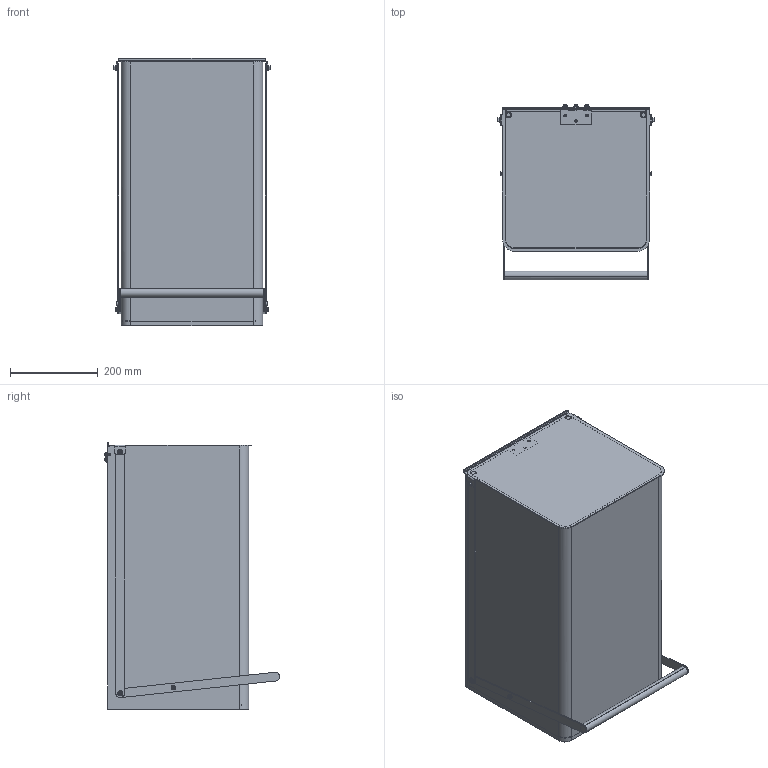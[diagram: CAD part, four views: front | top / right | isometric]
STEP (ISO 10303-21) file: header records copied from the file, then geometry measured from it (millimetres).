
FILE_DESCRIPTION(/* description */ (''),/* implementation_level */ '2;1');
FILE_NAME(/* name */ 'NEST_6~2',/* time_stamp */ '2020-09-02T13:38:08+02:00',/* author */ (''),/* organization */ (''),/* preprocessor_version */ 'ST-DEVELOPER v16.5',/* originating_system */ '',/* authorisation */ '');
FILE_SCHEMA (('AUTOMOTIVE_DESIGN'));
Length unit declared in the file: millimetre
Products named in the file (20): Document; NEST_600_000; 05TF30FRFI_FIXOR; socket head cap screw_din_DIN 912 M5 x 12 --- 12N; NEST_600_001; plain washer grade a_din_Washer DIN 125 - A 4.3; NEST_600_003; plain washer grade a_din_Washer DIN 125 - A 5.3; hex flange nut_din_Hexagon Flange Nut DIN 6923 - M5 - N; NEST_000_002; NEST_000_009; domed cap nut_din_DIN 1587 - M4 --NNU; 15CHM4-08; NEST_000_004; NEST_000_101; NEST_000_006; NEST_000_008; NEST_000_015; 3205512; NEST_600_002
Assembly tree (57 placements, depth 3):
  Document
    NEST_600_000
      05TF30FRFI_FIXOR  x2
      socket head cap screw_din_DIN 912 M5 x 12 --- 12N  x7
      NEST_600_001
      plain washer grade a_din_Washer DIN 125 - A 4.3  x3
      NEST_600_003  x2
      plain washer grade a_din_Washer DIN 125 - A 5.3  x14
      hex flange nut_din_Hexagon Flange Nut DIN 6923 - M5 - N  x9
      NEST_000_002  x2
      NEST_000_009
      domed cap nut_din_DIN 1587 - M4 --NNU  x3
      15CHM4-08  x3
      NEST_000_004
      NEST_000_101
      NEST_000_006  x2
      NEST_000_008
      NEST_000_015
      3205512  x2
      NEST_600_002
Bounding box: 357 x 399.17 x 608 mm (x, y, z)
Volume: 1749036.8 mm3; surface area: 2197576.8 mm2
Topology: 56 solids, 56 shells, 1159 faces, 2581 edges, 1518 vertices
Faces by surface type: bspline 685, plane 474
Entity records: 17430 total; most frequent: CARTESIAN_POINT 9498, ORIENTED_EDGE 2222, EDGE_CURVE 1111, B_SPLINE_CURVE_WITH_KNOTS 708, VERTEX_POINT 668, EDGE_LOOP 557, ADVANCED_FACE 484, FACE_OUTER_BOUND 484
